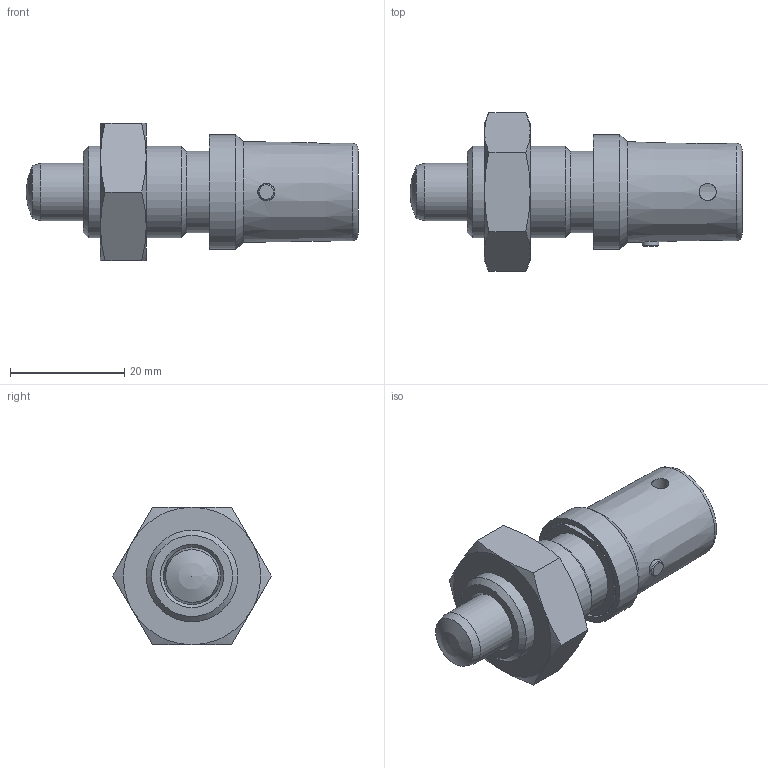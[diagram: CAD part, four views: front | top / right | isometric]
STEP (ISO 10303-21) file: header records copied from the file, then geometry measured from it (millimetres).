
FILE_DESCRIPTION( ( 'STEP AP203' ), '1' );
FILE_NAME( 'C:/Temp/Ganter_Step_05_03_2020/data/3_1/gn816/gn_816_bk/Locking plunger GN 816-10-M16x1,5-BK (deactivated).stp', '2020-03-12T08:56:04', ( 'License CC BY-ND 4.0' ), ( 'CADENAS' ), ' ', 'PARTsolutions', ' ' );
FILE_SCHEMA( ( 'CONFIG_CONTROL_DESIGN' ) );
Length unit declared in the file: millimetre
Products named in the file (4): Locking plunger GN 816-10-M16x1,5-BK (deactivated); _GN 816-10-M16x1,5-B(0)-b2; _GN 816-10-M16x1,5-Bb1; _Lock nut ISO 8675 GN 816-10-M16x1,5-AK
Assembly tree (3 placements, depth 2):
  Locking plunger GN 816-10-M16x1,5-BK (deactivated)
    _GN 816-10-M16x1,5-B(0)-b2
    _GN 816-10-M16x1,5-Bb1
    _Lock nut ISO 8675 GN 816-10-M16x1,5-AK
Bounding box: 58 x 27.71 x 24 mm (x, y, z)
Volume: 12183 mm3; surface area: 8156 mm2
Topology: 3 solids, 3 shells, 63 faces, 128 edges, 77 vertices
Faces by surface type: cone 25, plane 20, cylinder 15, torus 2, sphere 1
Full cylindrical faces by diameter (mm): 2.9 x2, 3 x2, 7 x1, 10 x2, 11.1 x1, 14.2 x1, 14.376 x1, 16 x1, 18 x1, 20 x1
Entity records: 1997 total; most frequent: CARTESIAN_POINT 696, DIRECTION 246, ORIENTED_EDGE 188, AXIS2_PLACEMENT_3D 117, EDGE_LOOP 106, EDGE_CURVE 94, FACE_OUTER_BOUND 78, VERTEX_POINT 73
